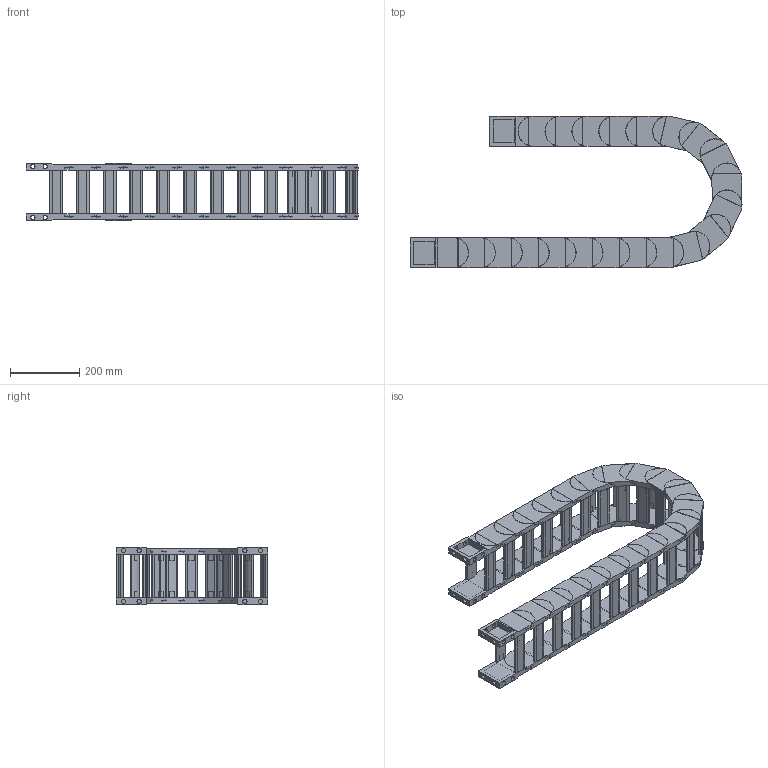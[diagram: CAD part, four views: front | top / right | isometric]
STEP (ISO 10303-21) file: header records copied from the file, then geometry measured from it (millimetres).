
FILE_DESCRIPTION((''),'2;1');
FILE_NAME('HD65-R175-ZPT_ASM','2022-06-18T17:01:10',('admin'),(''),'CREO PARAMETRIC BY PTC INC, 2021164','CREO PARAMETRIC BY PTC INC, 2021164','');
FILE_SCHEMA(('CONFIG_CONTROL_DESIGN','GEOMETRIC_VALIDATION_PROPERTIES_MIM'));
Length unit declared in the file: millimetre
Products named in the file (6): HD65; 65-50HDQSYP; HD65_ASM; H65-T1; H65-T2; HD65-R175-ZPT_ASM
Assembly tree (26 placements, depth 3):
  HD65-R175-ZPT_ASM
    HD65_ASM  x20
      HD65
      65-50HDQSYP
    H65-T1
    H65-T2
    65-50HDQSYP  x2
Bounding box: 956.21 x 435.98 x 165.4 mm (x, y, z)
Volume: 6557053.9 mm3; surface area: 1962442.3 mm2
Topology: 88 solids, 88 shells, 1628 faces, 4288 edges, 2928 vertices
Faces by surface type: plane 1248, cylinder 380
Entity records: 8896 total; most frequent: CARTESIAN_POINT 1328, DIRECTION 1296, ORIENTED_EDGE 1212, EDGE_CURVE 606, AXIS2_PLACEMENT_3D 436, VECTOR 424, LINE 424, VERTEX_POINT 410
